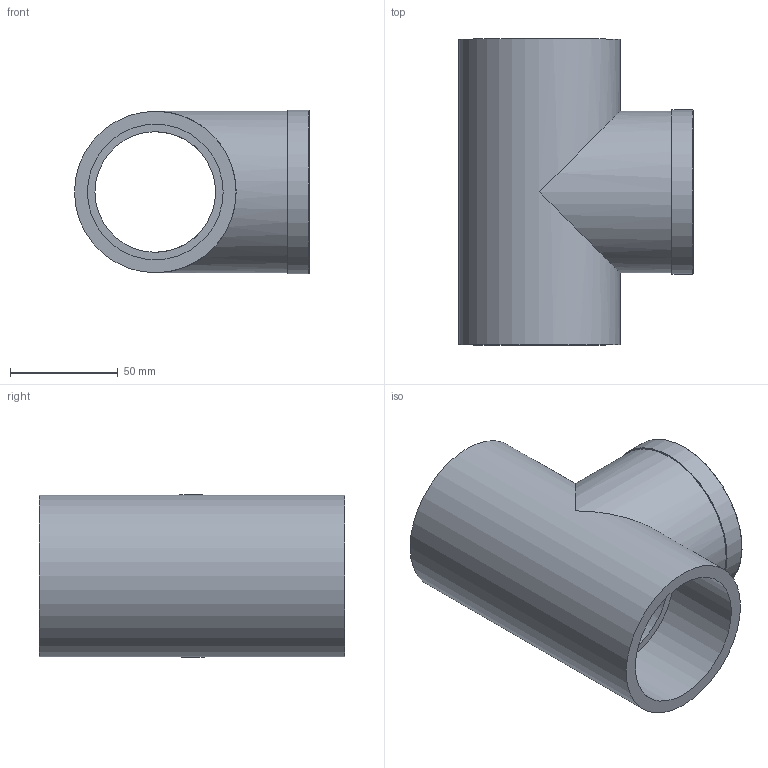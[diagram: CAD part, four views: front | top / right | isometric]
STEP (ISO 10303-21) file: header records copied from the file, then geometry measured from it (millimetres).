
FILE_DESCRIPTION(/* description */ (''),/* implementation_level */ '2;1');
FILE_NAME(/* name */ 'C:\Users\POLYPIPE\Desktop\DATASET INVENTOR\LIBRERIA EFFAST\RACCORDI 3DxWEB\RGR\3D_RGRTIR\3D_RGRTIR063G.stp',/* time_stamp */ '2018-01-19T17:57:42+01:00',/* author */ ('POLYPIPE'),/* organization */ (''),/* preprocessor_version */ 'ST-DEVELOPER v16.1',/* originating_system */ 'Autodesk Inventor 2016',/* authorisation */ '');
FILE_SCHEMA (('CONFIG_CONTROL_DESIGN'));
Length unit declared in the file: centimetre
Products named in the file (1): 3D_RGRTIR063G
Bounding box: 109.1 x 142 x 76.14 mm (x, y, z)
Volume: 281993.7 mm3; surface area: 81449.3 mm2
Topology: 1 solids, 1 shells, 24 faces, 48 edges, 32 vertices
Faces by surface type: cylinder 9, plane 9, bspline 5, torus 1
Full cylindrical faces by diameter (mm): 56 x2, 56.656 x1, 63 x3, 75 x2, 76.2 x1
Entity records: 4681 total; most frequent: CARTESIAN_POINT 4168, DIRECTION 89, ORIENTED_EDGE 74, EDGE_LOOP 43, AXIS2_PLACEMENT_3D 43, EDGE_CURVE 37, VERTEX_POINT 30, STYLED_ITEM 25
